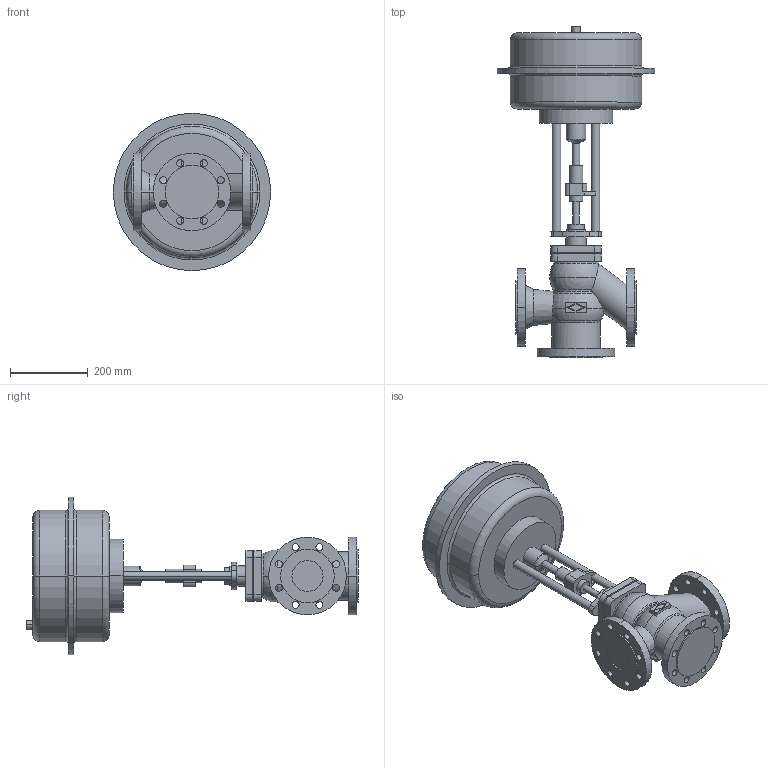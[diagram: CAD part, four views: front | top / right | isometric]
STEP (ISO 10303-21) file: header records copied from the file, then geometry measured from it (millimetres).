
FILE_DESCRIPTION(('OneSpaceDesigner STEP Export'),'2;1');
FILE_NAME('c000000695.stp','2006-09-19T10:18:46',(''),(''),'OneSpace Designer STEP processor for AP214 (Solid Model)','OneSpace Designer 13.20A 18-Aug-2005 (C) CoCreate Software GmbH','');
FILE_SCHEMA(('AUTOMOTIVE_DESIGN { 1 0 10303 214 1 1 1 1 }'));
Length unit declared in the file: millimetre
Products named in the file (2): 1; 2
Bounding box: 405 x 854.5 x 405 mm (x, y, z)
Volume: 26442179.3 mm3; surface area: 966992 mm2
Topology: 2 solids, 2 shells, 224 faces, 561 edges, 365 vertices
Faces by surface type: cylinder 118, plane 76, torus 20, cone 6, sphere 4
Entity records: 6171 total; most frequent: CARTESIAN_POINT 1238, ORIENTED_EDGE 1114, DIRECTION 884, EDGE_CURVE 557, VERTEX_POINT 365, AXIS2_PLACEMENT_3D 324, EDGE_LOOP 300, VECTOR 236
